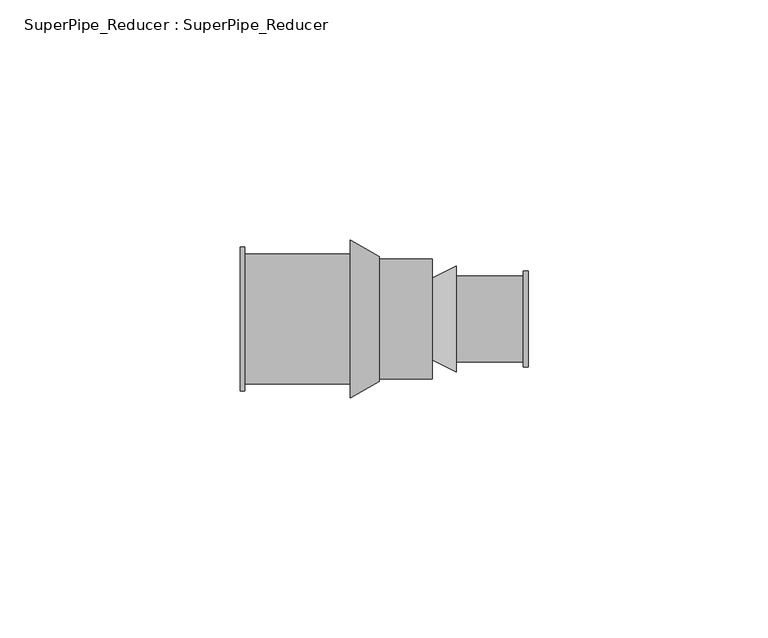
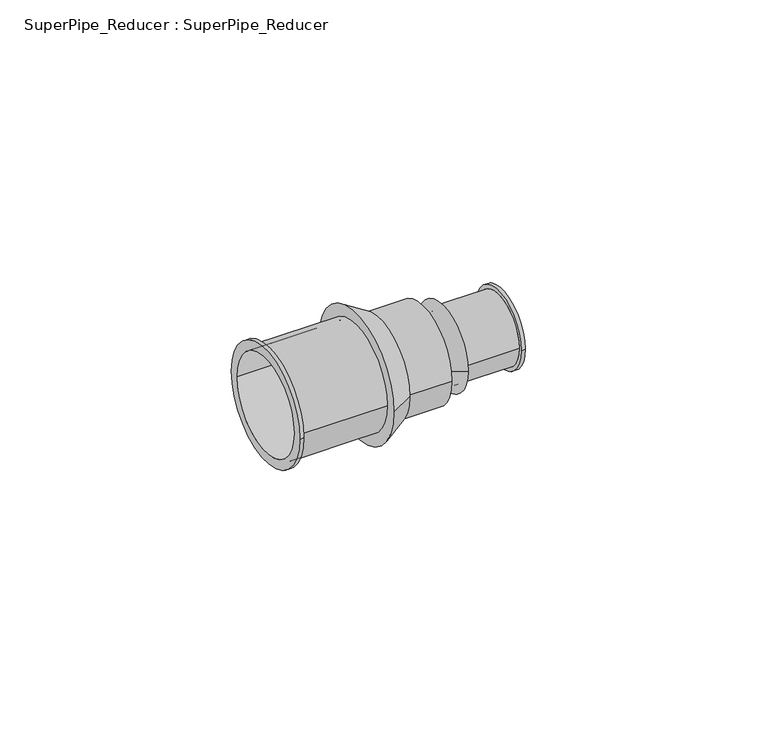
"""IFC4 building model written with IfcOpenShell, lengths in millimetres: pipe fitting geometry, SuperPipe_Reducer : SuperPipe_Reducer."""

from ifc_helpers import new_model, si_unit, point, frame, origin, origin_2d, place, context, project, spatial, polyline, circle_curve, trimmed, segment, composite_curve, outline, extrude, source, transform, mapped, element, save
from ifc_brep_helpers import plane_surface, cylinder_surface, revolved_surface, advanced_brep


def superpipe_reducer_superpipe_reducer_131d987d(model_context):
    return source(origin(), model_context, "Body", "SolidModel", [
        advanced_brep(
        [(15.0, -9.0, 0.0), (15.0, 9.0, 0.0), (15.0, -8.0, 0.0), (15.0, 8.0, 0.0), (30.0, -10.0, 0.0), (30.0, 10.0, 0.0), (30.0, -8.0, 0.0), (30.0, 8.0, 0.0), (29.0, -9.0, 0.0), (29.0, 9.0, 0.0), (29.0, -8.0, 0.0), (29.0, 8.0, 0.0), (29.0, -10.0, 0.0), (29.0, 10.0, 0.0)],
        [
            (0, 1, circle_curve(frame((15.0, 0.0, 0.0), z_axis=(-1.0, 0.0, 0.0), x_axis=(0.0, 1.0, 0.0)), 9.0)),
            (1, 0, circle_curve(frame((15.0, 0.0, 0.0), z_axis=(-1.0, 0.0, 0.0), x_axis=(0.0, 1.0, 0.0)), 9.0)),
            (2, 3, circle_curve(frame((15.0, 0.0, 0.0), z_axis=(1.0, 0.0, 0.0), x_axis=(0.0, 1.0, 0.0)), 8.0)),
            (3, 2, circle_curve(frame((15.0, 0.0, 0.0), z_axis=(1.0, 0.0, 0.0), x_axis=(0.0, 1.0, 0.0)), 8.0)),
            (4, 5, circle_curve(frame((30.0, 0.0, 0.0), z_axis=(1.0, 0.0, 0.0), x_axis=(0.0, 1.0, 0.0)), 10.0)),
            (5, 4, circle_curve(frame((30.0, 0.0, 0.0), z_axis=(1.0, 0.0, 0.0), x_axis=(0.0, 1.0, 0.0)), 10.0)),
            (6, 7, circle_curve(frame((30.0, 0.0, 0.0), z_axis=(-1.0, 0.0, 0.0), x_axis=(0.0, 1.0, 0.0)), 8.0)),
            (7, 6, circle_curve(frame((30.0, 0.0, 0.0), z_axis=(-1.0, 0.0, 0.0), x_axis=(0.0, 1.0, 0.0)), 8.0)),
            (0, 8),
            (8, 9, circle_curve(frame((29.0, 0.0, 0.0), z_axis=(-1.0, 0.0, 0.0), x_axis=(0.0, 1.0, 0.0)), 9.0)),
            (9, 1),
            (9, 8, circle_curve(frame((29.0, 0.0, 0.0), z_axis=(-1.0, 0.0, 0.0), x_axis=(0.0, 1.0, 0.0)), 9.0)),
            (2, 10),
            (10, 6),
            (7, 11),
            (11, 3),
            (12, 13, circle_curve(frame((29.0, 0.0, 0.0), z_axis=(-1.0, 0.0, 0.0), x_axis=(0.0, 1.0, 0.0)), 10.0)),
            (13, 12, circle_curve(frame((29.0, 0.0, 0.0), z_axis=(-1.0, 0.0, 0.0), x_axis=(0.0, 1.0, 0.0)), 10.0)),
            (12, 4),
            (5, 13),
        ],
        [
            plane_surface(frame((15.0, 0.0, 0.0), z_axis=(-1.0, 0.0, 0.0), x_axis=(0.0, 0.0, 1.0))),
            plane_surface(frame((30.0, 0.0, 0.0), z_axis=(1.0, 0.0, 0.0), x_axis=(0.0, 0.0, 1.0))),
            cylinder_surface(frame((15.0, 0.0, 0.0), z_axis=(-1.0, 0.0, 0.0), x_axis=(0.0, 1.0, 0.0)), 9.0),
            revolved_surface(polyline([(30.0, 8.0, 0.0), (15.0, 8.0, 0.0)]), (15.0, 0.0, 0.0), (1.0, 0.0, 0.0)),
            plane_surface(frame((29.0, 0.0, 0.0), z_axis=(-1.0, 0.0, 0.0), x_axis=(0.0, 0.0, 1.0))),
            cylinder_surface(frame((29.0, 0.0, 0.0), z_axis=(-1.0, 0.0, 0.0), x_axis=(0.0, 1.0, 0.0)), 10.0),
        ],
        [
            (0, [[1, 2], [3, 4]]),
            (1, [[5, 6], [7, 8]]),
            (2, [[-1, 9, 10, 11]]),
            (2, [[-2, -11, 12, -9]]),
            (3, [[-3, 13, 14, -8, 15, 16]]),
            (3, [[-4, -16, -15, -7, -14, -13]]),
            (4, [[17, 18], [-10, -12]]),
            (5, [[-17, 19, -6, 20]]),
            (5, [[-18, -20, -5, -19]]),
        ],
    ),
        advanced_brep(
        [(-30.0, -15.0, 0.0), (-30.0, 15.0, 0.0), (-30.0, -12.5, 0.0), (-30.0, 12.5, 0.0), (-7.0, -13.5, 0.0), (-7.0, 13.5, 0.0), (-7.0, -12.5, 0.0), (-7.0, 12.5, 0.0), (-29.0, -12.5, 0.0), (-29.0, 12.5, 0.0), (-29.0, 13.5, 0.0), (-29.0, -13.5, 0.0), (-29.0, -15.0, 0.0), (-29.0, 15.0, 0.0)],
        [
            (0, 1, circle_curve(frame((-30.0, 0.0, 0.0), z_axis=(-1.0, 0.0, 0.0), x_axis=(0.0, 1.0, 0.0)), 15.0)),
            (1, 0, circle_curve(frame((-30.0, 0.0, 0.0), z_axis=(-1.0, 0.0, 0.0), x_axis=(0.0, 1.0, 0.0)), 15.0)),
            (2, 3, circle_curve(frame((-30.0, 0.0, 0.0), z_axis=(1.0, 0.0, 0.0), x_axis=(0.0, 1.0, 0.0)), 12.5)),
            (3, 2, circle_curve(frame((-30.0, 0.0, 0.0), z_axis=(1.0, 0.0, 0.0), x_axis=(0.0, 1.0, 0.0)), 12.5)),
            (4, 5, circle_curve(frame((-7.0, 0.0, 0.0), z_axis=(1.0, 0.0, 0.0), x_axis=(0.0, 1.0, 0.0)), 13.5)),
            (5, 4, circle_curve(frame((-7.0, 0.0, 0.0), z_axis=(1.0, 0.0, 0.0), x_axis=(0.0, 1.0, 0.0)), 13.5)),
            (6, 7, circle_curve(frame((-7.0, 0.0, 0.0), z_axis=(-1.0, 0.0, 0.0), x_axis=(0.0, 1.0, 0.0)), 12.5)),
            (7, 6, circle_curve(frame((-7.0, 0.0, 0.0), z_axis=(-1.0, 0.0, 0.0), x_axis=(0.0, 1.0, 0.0)), 12.5)),
            (2, 8),
            (8, 6),
            (7, 9),
            (9, 3),
            (5, 10),
            (10, 11, circle_curve(frame((-29.0, 0.0, 0.0), z_axis=(1.0, 0.0, 0.0), x_axis=(0.0, 1.0, 0.0)), 13.5)),
            (11, 4),
            (11, 10, circle_curve(frame((-29.0, 0.0, 0.0), z_axis=(1.0, 0.0, 0.0), x_axis=(0.0, 1.0, 0.0)), 13.5)),
            (12, 13, circle_curve(frame((-29.0, 0.0, 0.0), z_axis=(1.0, 0.0, 0.0), x_axis=(0.0, 1.0, 0.0)), 15.0)),
            (13, 12, circle_curve(frame((-29.0, 0.0, 0.0), z_axis=(1.0, 0.0, 0.0), x_axis=(0.0, 1.0, 0.0)), 15.0)),
            (0, 12),
            (13, 1),
        ],
        [
            plane_surface(frame((-30.0, 0.0, 0.0), z_axis=(-1.0, 0.0, 0.0), x_axis=(0.0, 0.0, 1.0))),
            plane_surface(frame((-7.0, 0.0, 0.0), z_axis=(1.0, 0.0, 0.0), x_axis=(0.0, 0.0, 1.0))),
            revolved_surface(polyline([(-7.0, 12.5, 0.0), (-30.0, 12.5, 0.0)]), (-30.0, 0.0, 0.0), (1.0, 0.0, 0.0)),
            cylinder_surface(frame((-30.0, 0.0, 0.0), z_axis=(-1.0, 0.0, 0.0), x_axis=(0.0, 1.0, 0.0)), 13.5),
            plane_surface(frame((-29.0, 0.0, 0.0), z_axis=(1.0, 0.0, 0.0), x_axis=(0.0, 0.0, 1.0))),
            cylinder_surface(frame((-30.0, 0.0, 0.0), z_axis=(-1.0, 0.0, 0.0), x_axis=(0.0, 1.0, 0.0)), 15.0),
        ],
        [
            (0, [[1, 2], [3, 4]]),
            (1, [[5, 6], [7, 8]]),
            (2, [[-3, 9, 10, -8, 11, 12]]),
            (2, [[-4, -12, -11, -7, -10, -9]]),
            (3, [[-6, 13, 14, 15]]),
            (3, [[-5, -15, 16, -13]]),
            (4, [[17, 18], [-14, -16]]),
            (5, [[-1, 19, -18, 20]]),
            (5, [[-2, -20, -17, -19]]),
        ],
    ),
        advanced_brep(
        [(15.0, -11.0, 0.0), (15.0, 11.0, 0.0), (15.0, 8.0, 0.0), (15.0, -8.0, 0.0), (10.0, -8.5, 0.0), (10.0, 8.5, 0.0), (10.0, -8.0, 0.0), (10.0, 8.0, 0.0)],
        [
            (0, 1, circle_curve(frame((15.0, 0.0, 0.0), z_axis=(1.0, 0.0, 0.0), x_axis=(0.0, -1.0, 0.0)), 11.0)),
            (1, 0, circle_curve(frame((15.0, 0.0, 0.0), z_axis=(1.0, 0.0, 0.0), x_axis=(0.0, 1.0, 0.0)), 11.0)),
            (2, 3, circle_curve(frame((15.0, 0.0, 0.0), z_axis=(-1.0, 0.0, 0.0), x_axis=(0.0, 1.0, 0.0)), 8.0)),
            (3, 2, circle_curve(frame((15.0, 0.0, 0.0), z_axis=(-1.0, 0.0, 0.0), x_axis=(0.0, 1.0, 0.0)), 8.0)),
            (4, 5, circle_curve(frame((10.0, 0.0, 0.0), z_axis=(-1.0, 0.0, 0.0), x_axis=(0.0, 1.0, 0.0)), 8.5)),
            (5, 4, circle_curve(frame((10.0, 0.0, 0.0), z_axis=(-1.0, 0.0, 0.0), x_axis=(0.0, -1.0, 0.0)), 8.5)),
            (6, 7, circle_curve(frame((10.0, 0.0, 0.0), z_axis=(1.0, 0.0, 0.0), x_axis=(0.0, 1.0, 0.0)), 8.0)),
            (7, 6, circle_curve(frame((10.0, 0.0, 0.0), z_axis=(1.0, 0.0, 0.0), x_axis=(0.0, 1.0, 0.0)), 8.0)),
            (0, 4),
            (5, 1),
            (2, 7),
            (6, 3),
        ],
        [
            plane_surface(frame((15.0, 0.0, 0.0), z_axis=(1.0, 0.0, 0.0), x_axis=(0.0, 0.0, -1.0))),
            plane_surface(frame((10.0, 0.0, 0.0), z_axis=(-1.0, 0.0, 0.0), x_axis=(0.0, 0.0, -1.0))),
            revolved_surface(polyline([(10.0, 8.5, 0.0), (15.0, 11.0, 0.0)]), (-7.0, 0.0, 0.0), (1.0, 0.0, 0.0)),
            revolved_surface(polyline([(10.0, -8.5, 0.0), (15.0, -11.0, 0.0)]), (-7.0, 0.0, 0.0), (1.0, 0.0, 0.0)),
            revolved_surface(polyline([(15.0, 8.0, 0.0), (10.0, 8.0, 0.0)]), (10.0, 0.0, 0.0), (1.0, 0.0, 0.0)),
        ],
        [
            (0, [[1, 2], [3, 4]]),
            (1, [[5, 6], [7, 8]]),
            (2, [[-1, 9, -6, 10]]),
            (3, [[-2, -10, -5, -9]]),
            (4, [[11, -7, 12, -3]]),
            (4, [[-11, -4, -12, -8]]),
        ],
    ),
        advanced_brep(
        [(-1.0, -13.0, 0.0), (-1.0, 13.0, 0.0), (-1.0, 12.5, 0.0), (-1.0, -12.5, 0.0), (-7.0, -16.5, 0.0), (-7.0, 16.5, 0.0), (-7.0, -12.5, 0.0), (-7.0, 12.5, 0.0)],
        [
            (0, 1, circle_curve(frame((-1.0, 0.0, 0.0), z_axis=(1.0, 0.0, 0.0), x_axis=(0.0, -1.0, 0.0)), 13.0)),
            (1, 0, circle_curve(frame((-1.0, 0.0, 0.0), z_axis=(1.0, 0.0, 0.0), x_axis=(0.0, 1.0, 0.0)), 13.0)),
            (2, 3, circle_curve(frame((-1.0, 0.0, 0.0), z_axis=(-1.0, 0.0, 0.0), x_axis=(0.0, 1.0, 0.0)), 12.5)),
            (3, 2, circle_curve(frame((-1.0, 0.0, 0.0), z_axis=(-1.0, 0.0, 0.0), x_axis=(0.0, 1.0, 0.0)), 12.5)),
            (4, 5, circle_curve(frame((-7.0, 0.0, 0.0), z_axis=(-1.0, 0.0, 0.0), x_axis=(0.0, 1.0, 0.0)), 16.5)),
            (5, 4, circle_curve(frame((-7.0, 0.0, 0.0), z_axis=(-1.0, 0.0, 0.0), x_axis=(0.0, -1.0, 0.0)), 16.5)),
            (6, 7, circle_curve(frame((-7.0, 0.0, 0.0), z_axis=(1.0, 0.0, 0.0), x_axis=(0.0, 1.0, 0.0)), 12.5)),
            (7, 6, circle_curve(frame((-7.0, 0.0, 0.0), z_axis=(1.0, 0.0, 0.0), x_axis=(0.0, 1.0, 0.0)), 12.5)),
            (0, 4),
            (5, 1),
            (2, 7),
            (6, 3),
        ],
        [
            plane_surface(frame((-1.0, 0.0, 0.0), z_axis=(1.0, 0.0, 0.0), x_axis=(0.0, 0.0, -1.0))),
            plane_surface(frame((-7.0, 0.0, 0.0), z_axis=(-1.0, 0.0, 0.0), x_axis=(0.0, 0.0, -1.0))),
            revolved_surface(polyline([(-1.0, -13.000000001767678, 0.0), (-7.0, -16.5, 0.0)]), (21.2857143, 0.0, 0.0), (-1.0, 0.0, 0.0)),
            revolved_surface(polyline([(-1.0, 13.000000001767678, 0.0), (-7.0, 16.5, 0.0)]), (21.2857143, 0.0, 0.0), (-1.0, 0.0, 0.0)),
            revolved_surface(polyline([(-1.0, 12.5, 0.0), (-7.0, 12.5, 0.0)]), (-7.0, 0.0, 0.0), (1.0, 0.0, 0.0)),
        ],
        [
            (0, [[1, 2], [3, 4]]),
            (1, [[5, 6], [7, 8]]),
            (2, [[-1, 9, -6, 10]]),
            (3, [[-2, -10, -5, -9]]),
            (4, [[11, -7, 12, -3]]),
            (4, [[-11, -4, -12, -8]]),
        ],
    ),
        extrude(outline(composite_curve([segment(trimmed(circle_curve(origin_2d(), 12.5), [point((-12.5, 0.0))], [point((12.5, 0.0))], False, "CARTESIAN"), True, "CONTINUOUS"), segment(trimmed(circle_curve(origin_2d(), 12.5), [point((12.5, 0.0))], [point((-12.5, 0.0))], False, "CARTESIAN"), True, "CONTINUOUS")], self_intersect=False)), frame((-1.0, 0.0, 0.0), z_axis=(1.0, 0.0, 0.0), x_axis=(0.0, 1.0, 0.0)), (0.0, 0.0, 1.0), 11.0),
    ])


if __name__ == "__main__":
    model = new_model("IFC4")
    model_context = context("Model", 3, world=origin())
    ifc_project = project(units=[si_unit("LENGTHUNIT", "METRE", prefix="MILLI")], contexts=[model_context])
    site = spatial("IfcSite", under=ifc_project)
    building = spatial("IfcBuilding", under=site)
    placement = place(None, origin())
    superpipe_reducer_superpipe_reducer_shape = superpipe_reducer_superpipe_reducer_131d987d(model_context)
    element("IfcPipeFitting", 1, ObjectType="SuperPipe_Reducer : SuperPipe_Reducer", at=placement, inside=building, context=model_context, shape_type="MappedRepresentation", body=[
        mapped(superpipe_reducer_superpipe_reducer_shape, transform((0.0, 0.0, 0.0), x_axis=(1.0, 0.0, 0.0), y_axis=(0.0, 1.0, 0.0), z_axis=(0.0, 0.0, 1.0))),
    ])
    save(model, "model.ifc")
